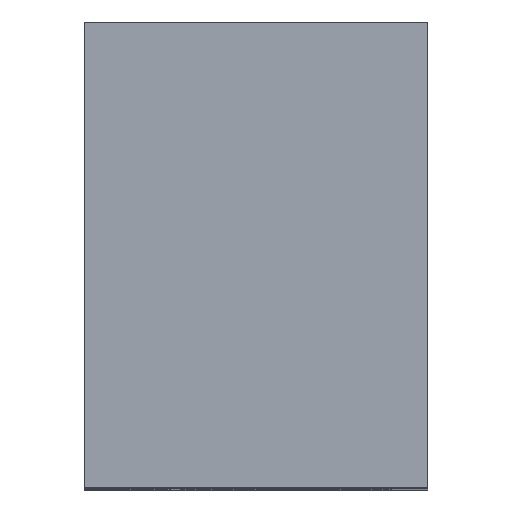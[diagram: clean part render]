
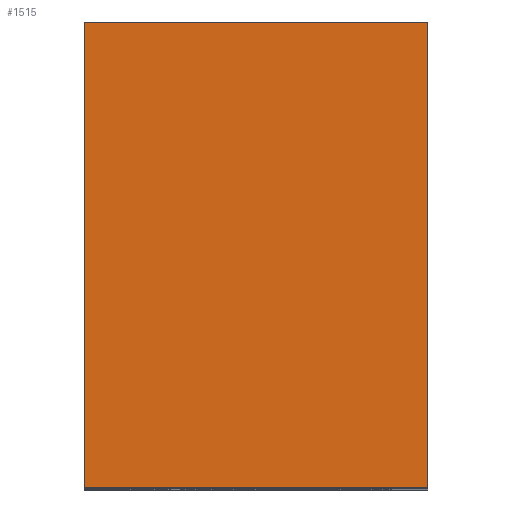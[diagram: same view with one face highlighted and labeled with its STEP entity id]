
A CAD part, top view. The second image highlights one B-rep face of the part: STEP entity #1515.
In plain terms, the highlighted planar face has unit normal (0, 0, 1).
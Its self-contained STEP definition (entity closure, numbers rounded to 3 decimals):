
#1385=CARTESIAN_POINT('',(-14.75,-20.0,50.));
#1386=VERTEX_POINT('',#1385);
#1395=CARTESIAN_POINT('',(-14.75,20.0,50.));
#1396=VERTEX_POINT('',#1395);
#1397=CARTESIAN_POINT('',(-14.75,20.0,50.));
#1398=DIRECTION('',(0.0,-1.0,0.0));
#1399=VECTOR('',#1398,40.0);
#1400=LINE('',#1397,#1399);
#1401=EDGE_CURVE('',#1396,#1386,#1400,.T.);
#1425=CARTESIAN_POINT('',(14.75,20.0,50.));
#1426=VERTEX_POINT('',#1425);
#1442=CARTESIAN_POINT('',(14.75,20.0,50.));
#1443=DIRECTION('',(-1.0,0.0,0.0));
#1444=VECTOR('',#1443,29.5);
#1445=LINE('',#1442,#1444);
#1446=EDGE_CURVE('',#1426,#1396,#1445,.T.);
#1480=CARTESIAN_POINT('',(14.75,-20.0,50.));
#1481=VERTEX_POINT('',#1480);
#1488=CARTESIAN_POINT('',(-14.75,-20.0,50.));
#1489=DIRECTION('',(1.0,0.0,0.0));
#1490=VECTOR('',#1489,29.5);
#1491=LINE('',#1488,#1490);
#1492=EDGE_CURVE('',#1386,#1481,#1491,.T.);
#1499=CARTESIAN_POINT('',(0.0,-20.0,50.));
#1500=DIRECTION('',(0.0,0.0,1.0));
#1501=DIRECTION('',(1.0,0.0,0.0));
#1502=AXIS2_PLACEMENT_3D('',#1499,#1500,#1501);
#1503=PLANE('',#1502);
#1504=CARTESIAN_POINT('',(14.75,-20.0,50.));
#1505=DIRECTION('',(0.0,1.0,0.0));
#1506=VECTOR('',#1505,40.0);
#1507=LINE('',#1504,#1506);
#1508=EDGE_CURVE('',#1481,#1426,#1507,.T.);
#1509=ORIENTED_EDGE('',*,*,#1508,.T.);
#1510=ORIENTED_EDGE('',*,*,#1446,.T.);
#1511=ORIENTED_EDGE('',*,*,#1401,.T.);
#1512=ORIENTED_EDGE('',*,*,#1492,.T.);
#1513=EDGE_LOOP('',(#1509,#1510,#1511,#1512));
#1514=FACE_OUTER_BOUND('',#1513,.T.);
#1515=ADVANCED_FACE('',(#1514),#1503,.T.);
